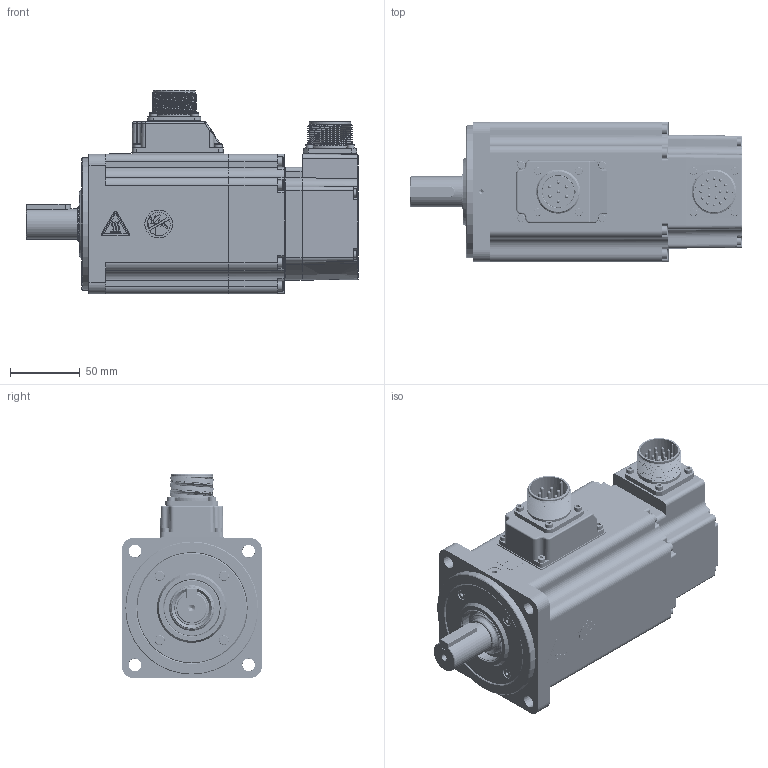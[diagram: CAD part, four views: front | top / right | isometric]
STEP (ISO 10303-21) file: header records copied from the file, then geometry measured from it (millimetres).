
FILE_DESCRIPTION(/* description */ ('AdapterTestApp'),/* implementation_level */ '2;1');
FILE_NAME(/* name */ 'TCE100 4A XX 3 A1 1 C3',/* time_stamp */ '2015-09-02T15:27:26+02:00',/* author */ ('AdapterTestApp'),/* organization */ ('Siemens PLM Software'),/* preprocessor_version */ 'ST-DEVELOPER v15.6',/* originating_system */ 'DEX',/* authorisation */ $);
FILE_SCHEMA (('AUTOMOTIVE_DESIGN {1 0 10303 214 3 1 1}'));
Products named in the file (30): TCE100 4A XX 3 A1 1 C3_vuoto; 003155002049; 005123000420; 005911000203; 003003199422; 003103001511; 001107000620; 003155002050; 005119000312; 005123000500; U5140003 vuoto; 003120002502; 003303000370; 005911000150; 003108002568_90Â°; 005911000201; 003799000580; 003303000373; 005117001750; 005117001754; 005751000300; 005007000130; 005911000212; 005204000002; 005204000003; 003251022001; 005911000183; 005911000493; 005204000001; 005113000596
Assembly tree (57 placements, depth 3):
  TCE100 4A XX 3 A1 1 C3_vuoto
    003155002049
    005123000420
    005911000203  x4
    003003199422
    003103001511
    001107000620
    003155002050
    005119000312
    005123000500
    U5140003 vuoto
      003120002502
      003303000370
      005911000150
      003108002568_90Â°
      005911000201  x8
      003799000580
      003303000373
      005117001750
    005117001754
    005751000300
    005007000130
    003303000373
    005911000212  x8
    005204000002
    005204000003
    003251022001
    005911000201  x4
    005911000183  x4
    005911000493  x4
    005204000001
    005113000596
Bounding box: 237.5 x 100.3 x 145.8 mm (x, y, z)
Volume: 724261.7 mm3; surface area: 318631.4 mm2
Topology: 73 solids, 83 shells, 3044 faces, 7531 edges, 4854 vertices
Faces by surface type: plane 1554, cylinder 735, extrusion 233, cone 174, torus 143, bspline 103, sphere 102
Full cylindrical faces by diameter (mm): 1.7 x2, 2 x35, 2.224 x1, 2.4 x8, 2.459 x23, 2.5 x1, 2.6 x1, 2.8 x7, 3 x34, 3.048 x4, 3.2 x5, 3.242 x42, 3.5 x17, 3.6 x1, 3.7 x8, 3.8 x2, 4 x29, 4.5 x16, 4.7 x11, 4.917 x1, 5.1 x1, 5.5 x31, 5.8 x6, 7 x16, 7.5 x4, 8 x5, 10 x1, 11 x1, 12 x2, 16.2 x1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
Entity records: 92716 total; most frequent: CARTESIAN_POINT 33013, ORIENTED_EDGE 11618, DIRECTION 11567, EDGE_CURVE 5809, VERTEX_POINT 4077, AXIS2_PLACEMENT_3D 4030, FACE_BOUND 3570, EDGE_LOOP 3514
